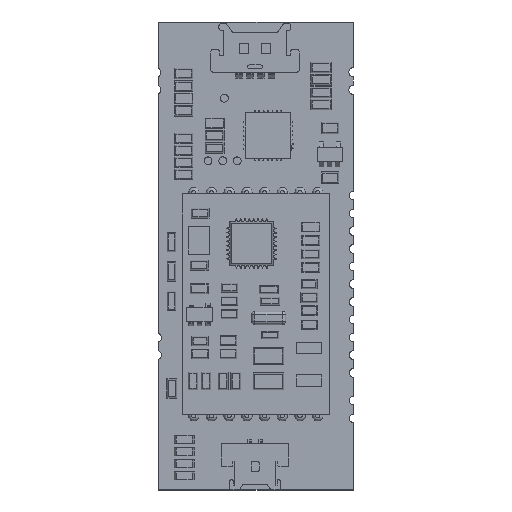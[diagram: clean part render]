
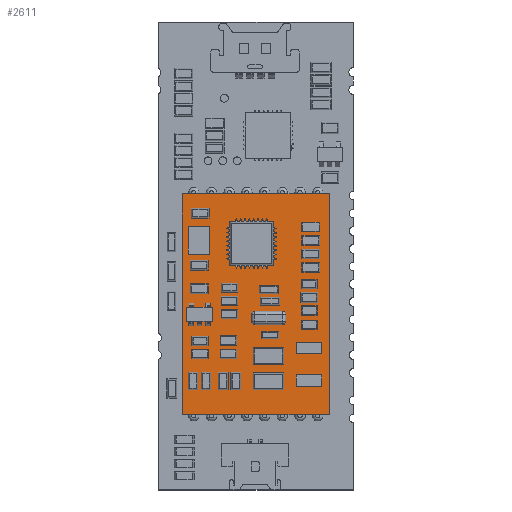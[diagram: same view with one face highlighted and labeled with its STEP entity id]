
A CAD part, top view. The second image highlights one B-rep face of the part: STEP entity #2611.
In plain terms, the highlighted planar face has unit normal (0, 0, 1).
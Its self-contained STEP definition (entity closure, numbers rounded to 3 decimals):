
#2611=ADVANCED_FACE('',(#4880),#3918,.T.);
#3918=PLANE('',#22420);
#4880=FACE_OUTER_BOUND('',#6213,.T.);
#6213=EDGE_LOOP('',(#7783,#7784,#7785,#7786));
#7783=ORIENTED_EDGE('',*,*,#15239,.T.);
#7784=ORIENTED_EDGE('',*,*,#15243,.T.);
#7785=ORIENTED_EDGE('',*,*,#15246,.T.);
#7786=ORIENTED_EDGE('',*,*,#15249,.T.);
#13333=VERTEX_POINT('',#30597);
#13334=VERTEX_POINT('',#30598);
#13337=VERTEX_POINT('',#30606);
#13339=VERTEX_POINT('',#30612);
#15239=EDGE_CURVE('',#13333,#13334,#18066,.T.);
#15243=EDGE_CURVE('',#13334,#13337,#18070,.T.);
#15246=EDGE_CURVE('',#13337,#13339,#18073,.T.);
#15249=EDGE_CURVE('',#13339,#13333,#18076,.T.);
#18066=LINE('',#30596,#20235);
#18070=LINE('',#30605,#20239);
#18073=LINE('',#30611,#20242);
#18076=LINE('',#30617,#20245);
#20235=VECTOR('',#24546,1.);
#20239=VECTOR('',#24552,1.);
#20242=VECTOR('',#24557,1.);
#20245=VECTOR('',#24562,1.);
#22420=AXIS2_PLACEMENT_3D('',#30621,#24568,#24569);
#24546=DIRECTION('',(0.,-1.,0.));
#24552=DIRECTION('',(1.,0.,0.));
#24557=DIRECTION('',(0.,1.,0.));
#24562=DIRECTION('',(-1.,0.,0.));
#24568=DIRECTION('',(0.,0.,1.));
#24569=DIRECTION('',(1.,0.,0.));
#30596=CARTESIAN_POINT('',(2.7,33.42,2.2));
#30597=CARTESIAN_POINT('',(2.7,33.42,2.2));
#30598=CARTESIAN_POINT('',(2.7,8.52,2.2));
#30605=CARTESIAN_POINT('',(2.7,8.52,2.2));
#30606=CARTESIAN_POINT('',(19.264,8.52,2.2));
#30611=CARTESIAN_POINT('',(19.264,8.52,2.2));
#30612=CARTESIAN_POINT('',(19.264,33.42,2.2));
#30617=CARTESIAN_POINT('',(19.264,33.42,2.2));
#30621=CARTESIAN_POINT('',(0.,0.,2.2));
